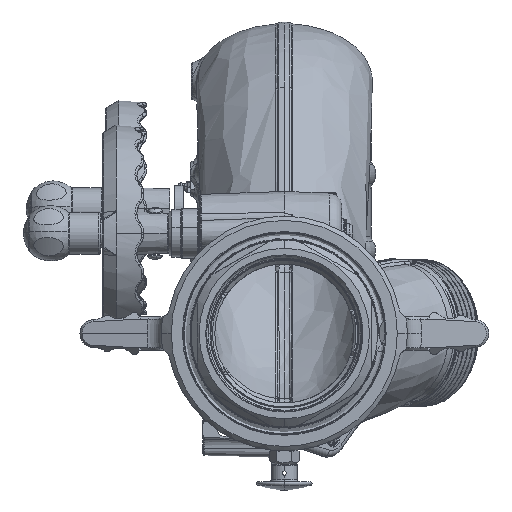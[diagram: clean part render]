
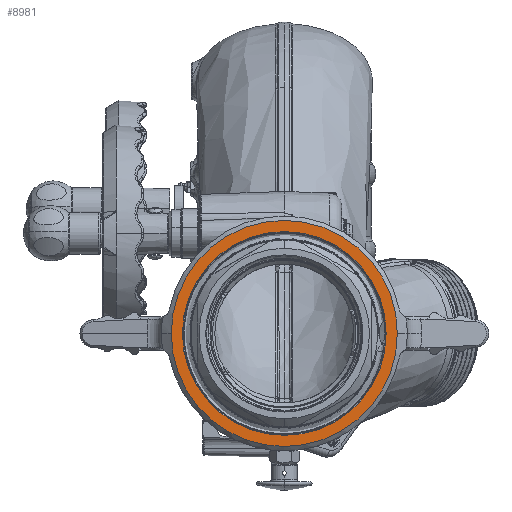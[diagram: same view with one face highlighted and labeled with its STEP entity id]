
A CAD part, front view. The second image highlights one B-rep face of the part: STEP entity #8981.
In plain terms, the highlighted planar face has unit normal (0, -1, 0).
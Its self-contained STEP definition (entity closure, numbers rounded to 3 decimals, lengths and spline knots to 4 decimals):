
#7117 = EDGE_CURVE ( 'NONE', #92060, #12790, #156185, .T. ) ;
#8981 = ADVANCED_FACE ( 'NONE', ( #129583, #162389 ), #75411, .T. ) ;
#12353 = CARTESIAN_POINT ( 'NONE',  ( -2.9285, -8.0388, 0. ) ) ;
#12790 = VERTEX_POINT ( 'NONE', #57523 ) ;
#14282 = DIRECTION ( 'NONE',  ( 0., -1., 0. ) ) ;
#18982 = CIRCLE ( 'NONE', #61866, 2.9285 ) ;
#20203 = CARTESIAN_POINT ( 'NONE',  ( 0., -8.0388, 0. ) ) ;
#29545 = DIRECTION ( 'NONE',  ( 1., 0., 0. ) ) ;
#31601 = CARTESIAN_POINT ( 'NONE',  ( 0., -8.0388, 0. ) ) ;
#31686 = EDGE_LOOP ( 'NONE', ( #121786, #124953 ) ) ;
#32781 = EDGE_CURVE ( 'NONE', #86497, #59854, #49857, .T. ) ;
#32958 = ORIENTED_EDGE ( 'NONE', *, *, #114370, .F. ) ;
#33975 = AXIS2_PLACEMENT_3D ( 'NONE', #114094, #14282, #29545 ) ;
#48376 = AXIS2_PLACEMENT_3D ( 'NONE', #180354, #112349, #125838 ) ;
#49857 = CIRCLE ( 'NONE', #127859, 2.9285 ) ;
#50572 = DIRECTION ( 'NONE',  ( 1., 0., 0. ) ) ;
#52148 = CARTESIAN_POINT ( 'NONE',  ( 3.25, -8.0388, 0. ) ) ;
#57523 = CARTESIAN_POINT ( 'NONE',  ( -3.25, -8.0388, 0. ) ) ;
#59854 = VERTEX_POINT ( 'NONE', #12353 ) ;
#60711 = DIRECTION ( 'NONE',  ( 1., 0., 0. ) ) ;
#61866 = AXIS2_PLACEMENT_3D ( 'NONE', #31601, #144882, #129604 ) ;
#75411 = PLANE ( 'NONE',  #79889 ) ;
#79889 = AXIS2_PLACEMENT_3D ( 'NONE', #20203, #158039, #60711 ) ;
#84169 = CARTESIAN_POINT ( 'NONE',  ( 2.9285, -8.0388, 0. ) ) ;
#86497 = VERTEX_POINT ( 'NONE', #84169 ) ;
#92060 = VERTEX_POINT ( 'NONE', #52148 ) ;
#108084 = DIRECTION ( 'NONE',  ( 0., -1., 0. ) ) ;
#111593 = EDGE_LOOP ( 'NONE', ( #112140, #32958 ) ) ;
#112140 = ORIENTED_EDGE ( 'NONE', *, *, #32781, .F. ) ;
#112349 = DIRECTION ( 'NONE',  ( 0., -1., 0. ) ) ;
#114094 = CARTESIAN_POINT ( 'NONE',  ( 0., -8.0388, 0. ) ) ;
#114370 = EDGE_CURVE ( 'NONE', #59854, #86497, #18982, .T. ) ;
#121559 = CARTESIAN_POINT ( 'NONE',  ( 0., -8.0388, 0. ) ) ;
#121786 = ORIENTED_EDGE ( 'NONE', *, *, #150362, .T. ) ;
#124953 = ORIENTED_EDGE ( 'NONE', *, *, #7117, .T. ) ;
#125838 = DIRECTION ( 'NONE',  ( 1., 0., 0. ) ) ;
#127859 = AXIS2_PLACEMENT_3D ( 'NONE', #121559, #108084, #50572 ) ;
#129583 = FACE_OUTER_BOUND ( 'NONE', #31686, .T. ) ;
#129604 = DIRECTION ( 'NONE',  ( 1., 0., 0. ) ) ;
#139207 = CIRCLE ( 'NONE', #48376, 3.25 ) ;
#144882 = DIRECTION ( 'NONE',  ( 0., -1., 0. ) ) ;
#150362 = EDGE_CURVE ( 'NONE', #12790, #92060, #139207, .T. ) ;
#156185 = CIRCLE ( 'NONE', #33975, 3.25 ) ;
#158039 = DIRECTION ( 'NONE',  ( 0., -1., 0. ) ) ;
#162389 = FACE_BOUND ( 'NONE', #111593, .T. ) ;
#180354 = CARTESIAN_POINT ( 'NONE',  ( 0., -8.0388, 0. ) ) ;
